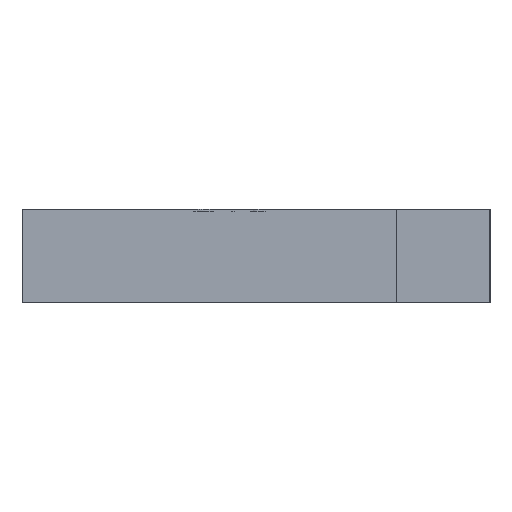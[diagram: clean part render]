
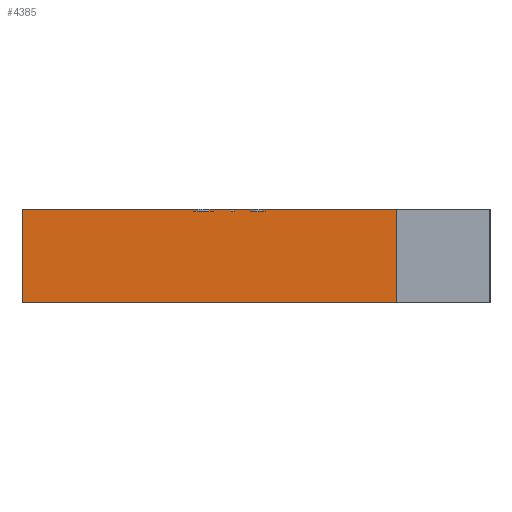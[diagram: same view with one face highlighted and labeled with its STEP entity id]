
A CAD part, left-side view. The second image highlights one B-rep face of the part: STEP entity #4385.
In plain terms, the highlighted planar face has unit normal (-1, 0, 0).
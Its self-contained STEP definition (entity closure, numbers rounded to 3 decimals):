
#82 = LINE ( 'NONE', #1868, #103 ) ;
#90 = LINE ( 'NONE', #1813, #105 ) ;
#103 = VECTOR ( 'NONE', #1850, 1000. ) ;
#104 = VECTOR ( 'NONE', #1824, 1000. ) ;
#105 = VECTOR ( 'NONE', #1826, 1000. ) ;
#108 = LINE ( 'NONE', #1833, #104 ) ;
#111 = VECTOR ( 'NONE', #1908, 1000. ) ;
#123 = LINE ( 'NONE', #1856, #142 ) ;
#127 = LINE ( 'NONE', #1880, #111 ) ;
#135 = LINE ( 'NONE', #1847, #136 ) ;
#136 = VECTOR ( 'NONE', #1873, 1000. ) ;
#140 = LINE ( 'NONE', #1842, #146 ) ;
#142 = VECTOR ( 'NONE', #1841, 1000. ) ;
#146 = VECTOR ( 'NONE', #1843, 1000. ) ;
#148 = LINE ( 'NONE', #1862, #149 ) ;
#149 = VECTOR ( 'NONE', #1865, 1000. ) ;
#150 = VECTOR ( 'NONE', #1957, 1000. ) ;
#151 = LINE ( 'NONE', #1902, #160 ) ;
#156 = VECTOR ( 'NONE', #1950, 1000. ) ;
#158 = LINE ( 'NONE', #1963, #156 ) ;
#160 = VECTOR ( 'NONE', #1907, 1000. ) ;
#166 = VECTOR ( 'NONE', #1884, 1000. ) ;
#176 = LINE ( 'NONE', #1940, #150 ) ;
#177 = LINE ( 'NONE', #1901, #166 ) ;
#189 = VECTOR ( 'NONE', #2054, 1000. ) ;
#190 = LINE ( 'NONE', #1968, #189 ) ;
#208 = LINE ( 'NONE', #1939, #221 ) ;
#221 = VECTOR ( 'NONE', #2010, 1000. ) ;
#230 = ORIENTED_EDGE ( 'NONE', *, *, #1251, .T. ) ;
#252 = ORIENTED_EDGE ( 'NONE', *, *, #1270, .F. ) ;
#389 = LINE ( 'NONE', #2457, #395 ) ;
#395 = VECTOR ( 'NONE', #2445, 1000. ) ;
#398 = LINE ( 'NONE', #2626, #3801 ) ;
#401 = FACE_OUTER_BOUND ( 'NONE', #3378, .T. ) ;
#1023 = CARTESIAN_POINT ( 'NONE',  ( -30., 25., 10. ) ) ;
#1042 = CARTESIAN_POINT ( 'NONE',  ( -30., -0.684, 10. ) ) ;
#1047 = CARTESIAN_POINT ( 'NONE',  ( -30., 0.362, 9.8 ) ) ;
#1071 = CARTESIAN_POINT ( 'NONE',  ( -30., 2.635, 9.8 ) ) ;
#1073 = CARTESIAN_POINT ( 'NONE',  ( -30., 25., 0. ) ) ;
#1077 = CARTESIAN_POINT ( 'NONE',  ( -30., -15., 0. ) ) ;
#1083 = CARTESIAN_POINT ( 'NONE',  ( -30., 2.635, 10. ) ) ;
#1084 = CARTESIAN_POINT ( 'NONE',  ( -30., 2.32, 10. ) ) ;
#1085 = CARTESIAN_POINT ( 'NONE',  ( -30., 6.281, 10. ) ) ;
#1088 = CARTESIAN_POINT ( 'NONE',  ( -30., 2.32, 9.8 ) ) ;
#1099 = CARTESIAN_POINT ( 'NONE',  ( -30., -0.684, 9.8 ) ) ;
#1103 = CARTESIAN_POINT ( 'NONE',  ( -30., 0.362, 10. ) ) ;
#1116 = CARTESIAN_POINT ( 'NONE',  ( -30., 5.022, 9.8 ) ) ;
#1117 = CARTESIAN_POINT ( 'NONE',  ( -30., -15., 10. ) ) ;
#1207 = EDGE_CURVE ( 'NONE', #3309, #3361, #108, .T. ) ;
#1216 = EDGE_CURVE ( 'NONE', #3262, #3312, #90, .T. ) ;
#1222 = EDGE_CURVE ( 'NONE', #3313, #3281, #82, .T. ) ;
#1226 = EDGE_CURVE ( 'NONE', #3262, #3350, #135, .T. ) ;
#1227 = EDGE_CURVE ( 'NONE', #3312, #3362, #148, .T. ) ;
#1233 = EDGE_CURVE ( 'NONE', #3342, #3352, #123, .T. ) ;
#1234 = EDGE_CURVE ( 'NONE', #3350, #3352, #140, .T. ) ;
#1238 = EDGE_CURVE ( 'NONE', #3279, #3313, #127, .T. ) ;
#1250 = EDGE_CURVE ( 'NONE', #3318, #3308, #177, .T. ) ;
#1251 = EDGE_CURVE ( 'NONE', #3318, #3341, #151, .T. ) ;
#1254 = EDGE_CURVE ( 'NONE', #3281, #3342, #176, .T. ) ;
#1255 = EDGE_CURVE ( 'NONE', #3308, #3335, #158, .T. ) ;
#1269 = EDGE_CURVE ( 'NONE', #3335, #3279, #208, .T. ) ;
#1270 = EDGE_CURVE ( 'NONE', #3362, #3309, #190, .T. ) ;
#1310 = EDGE_CURVE ( 'NONE', #3361, #3306, #389, .T. ) ;
#1322 = EDGE_CURVE ( 'NONE', #3341, #3306, #398, .T. ) ;
#1813 = CARTESIAN_POINT ( 'NONE',  ( -30., 25., 10. ) ) ;
#1824 = DIRECTION ( 'NONE',  ( 0., 0., 1. ) ) ;
#1826 = DIRECTION ( 'NONE',  ( 0., -1., 0. ) ) ;
#1833 = CARTESIAN_POINT ( 'NONE',  ( -30., 5.022, 9.8 ) ) ;
#1841 = DIRECTION ( 'NONE',  ( 0., 0., -1. ) ) ;
#1842 = CARTESIAN_POINT ( 'NONE',  ( -30., 25., 0. ) ) ;
#1843 = DIRECTION ( 'NONE',  ( 0., -1., 0. ) ) ;
#1847 = CARTESIAN_POINT ( 'NONE',  ( -30., 25., 10. ) ) ;
#1850 = DIRECTION ( 'NONE',  ( 0., 0., 1. ) ) ;
#1856 = CARTESIAN_POINT ( 'NONE',  ( -30., -15., 10. ) ) ;
#1862 = CARTESIAN_POINT ( 'NONE',  ( -30., 6.281, 9.8 ) ) ;
#1865 = DIRECTION ( 'NONE',  ( 0., 0., -1. ) ) ;
#1868 = CARTESIAN_POINT ( 'NONE',  ( -30., -0.684, 9.8 ) ) ;
#1873 = DIRECTION ( 'NONE',  ( 0., 0., -1. ) ) ;
#1880 = CARTESIAN_POINT ( 'NONE',  ( -30., 25., 9.8 ) ) ;
#1884 = DIRECTION ( 'NONE',  ( 0., 0., 1. ) ) ;
#1901 = CARTESIAN_POINT ( 'NONE',  ( -30., 2.32, 9.8 ) ) ;
#1902 = CARTESIAN_POINT ( 'NONE',  ( -30., 2.32, 9.8 ) ) ;
#1907 = DIRECTION ( 'NONE',  ( 0., 1., 0. ) ) ;
#1908 = DIRECTION ( 'NONE',  ( 0., -1., 0. ) ) ;
#1939 = CARTESIAN_POINT ( 'NONE',  ( -30., 0.362, 9.8 ) ) ;
#1940 = CARTESIAN_POINT ( 'NONE',  ( -30., 25., 10. ) ) ;
#1950 = DIRECTION ( 'NONE',  ( 0., -1., 0. ) ) ;
#1957 = DIRECTION ( 'NONE',  ( 0., -1., 0. ) ) ;
#1963 = CARTESIAN_POINT ( 'NONE',  ( -30., 25., 10. ) ) ;
#1968 = CARTESIAN_POINT ( 'NONE',  ( -30., 25., 9.8 ) ) ;
#2010 = DIRECTION ( 'NONE',  ( 0., 0., -1. ) ) ;
#2054 = DIRECTION ( 'NONE',  ( 0., -1., 0. ) ) ;
#2445 = DIRECTION ( 'NONE',  ( 0., -1., 0. ) ) ;
#2457 = CARTESIAN_POINT ( 'NONE',  ( -30., 25., 10. ) ) ;
#2626 = CARTESIAN_POINT ( 'NONE',  ( -30., 2.635, 9.8 ) ) ;
#2646 = DIRECTION ( 'NONE',  ( 0., 0., 1. ) ) ;
#3262 = VERTEX_POINT ( 'NONE', #1023 ) ;
#3279 = VERTEX_POINT ( 'NONE', #1047 ) ;
#3281 = VERTEX_POINT ( 'NONE', #1042 ) ;
#3306 = VERTEX_POINT ( 'NONE', #1083 ) ;
#3308 = VERTEX_POINT ( 'NONE', #1084 ) ;
#3309 = VERTEX_POINT ( 'NONE', #1116 ) ;
#3312 = VERTEX_POINT ( 'NONE', #1085 ) ;
#3313 = VERTEX_POINT ( 'NONE', #1099 ) ;
#3318 = VERTEX_POINT ( 'NONE', #1088 ) ;
#3335 = VERTEX_POINT ( 'NONE', #1103 ) ;
#3341 = VERTEX_POINT ( 'NONE', #1071 ) ;
#3342 = VERTEX_POINT ( 'NONE', #1117 ) ;
#3350 = VERTEX_POINT ( 'NONE', #1073 ) ;
#3352 = VERTEX_POINT ( 'NONE', #1077 ) ;
#3361 = VERTEX_POINT ( 'NONE', #4309 ) ;
#3362 = VERTEX_POINT ( 'NONE', #4294 ) ;
#3378 = EDGE_LOOP ( 'NONE', ( #4796, #252, #4783, #4757, #4792, #4773, #4764, #4809, #4785, #4753, #4807, #4794, #4761, #230, #4751, #4748 ) ) ;
#3801 = VECTOR ( 'NONE', #2646, 1000. ) ;
#4184 = CARTESIAN_POINT ( 'NONE',  ( -30., 25., 10. ) ) ;
#4197 = DIRECTION ( 'NONE',  ( 0., 1., 0. ) ) ;
#4216 = PLANE ( 'NONE',  #5071 ) ;
#4227 = DIRECTION ( 'NONE',  ( 1., 0., 0. ) ) ;
#4294 = CARTESIAN_POINT ( 'NONE',  ( -30., 6.281, 9.8 ) ) ;
#4309 = CARTESIAN_POINT ( 'NONE',  ( -30., 5.022, 10. ) ) ;
#4385 = ADVANCED_FACE ( 'NONE', ( #401 ), #4216, .F. ) ;
#4748 = ORIENTED_EDGE ( 'NONE', *, *, #1310, .F. ) ;
#4751 = ORIENTED_EDGE ( 'NONE', *, *, #1322, .T. ) ;
#4753 = ORIENTED_EDGE ( 'NONE', *, *, #1238, .F. ) ;
#4757 = ORIENTED_EDGE ( 'NONE', *, *, #1216, .F. ) ;
#4761 = ORIENTED_EDGE ( 'NONE', *, *, #1250, .F. ) ;
#4764 = ORIENTED_EDGE ( 'NONE', *, *, #1233, .F. ) ;
#4773 = ORIENTED_EDGE ( 'NONE', *, *, #1234, .T. ) ;
#4783 = ORIENTED_EDGE ( 'NONE', *, *, #1227, .F. ) ;
#4785 = ORIENTED_EDGE ( 'NONE', *, *, #1222, .F. ) ;
#4792 = ORIENTED_EDGE ( 'NONE', *, *, #1226, .T. ) ;
#4794 = ORIENTED_EDGE ( 'NONE', *, *, #1255, .F. ) ;
#4796 = ORIENTED_EDGE ( 'NONE', *, *, #1207, .F. ) ;
#4807 = ORIENTED_EDGE ( 'NONE', *, *, #1269, .F. ) ;
#4809 = ORIENTED_EDGE ( 'NONE', *, *, #1254, .F. ) ;
#5071 = AXIS2_PLACEMENT_3D ( 'NONE', #4184, #4227, #4197 ) ;
